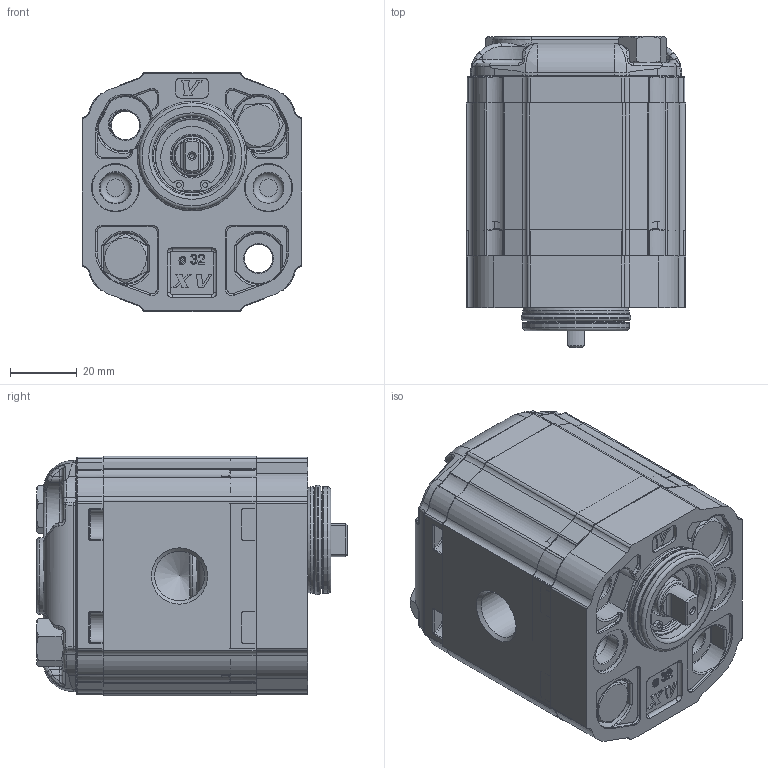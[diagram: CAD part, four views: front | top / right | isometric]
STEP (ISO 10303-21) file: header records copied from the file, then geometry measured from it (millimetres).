
FILE_DESCRIPTION( ( 'Unknown' ), '1' );
FILE_NAME( 'P:/montaggio_easy/output/STP/X1M2031DBBE.stp', 'Unknown', ( 'Unknown' ), ( 'Unknown' ), 'PSStep 14.0', 'Unknown', ' ' );
FILE_SCHEMA( ( 'AUTOMOTIVE_DESIGN { 1 0 10303 214 1 1 1 1 }' ) );
Length unit declared in the file: millimetre
Products named in the file (5): Assem1; X1M31; 1D; X1BBH46; XM140-E
Bounding box: 66 x 93.5 x 72 mm (x, y, z)
Surface area: 127650.8 mm2
Topology: 8 solids, 14 shells, 2642 faces, 6536 edges, 4060 vertices
Faces by surface type: plane 964, cylinder 822, torus 366, bspline 252, extrusion 126, cone 104, sphere 8
Full cylindrical faces by diameter (mm): 1.447 x4, 1.5 x2, 2.5 x2, 3 x12, 8 x8, 8.5 x6, 9 x4, 9.3 x4, 10 x2, 10.5 x4, 11.445 x4, 11.965 x2, 12 x2, 12.4 x2, 14.5 x4, 14.95 x4, 15.115 x2, 17.147 x2, 19 x2, 20 x2, 21.8 x2, 22 x4, 22.2 x2, 23 x2, 24 x2, 29.4 x4, 32 x4, 32.96 x2
Entity records: 56463 total; most frequent: CARTESIAN_POINT 15767, DIRECTION 6209, ORIENTED_EDGE 6180, EDGE_CURVE 3090, AXIS2_PLACEMENT_3D 2347, VERTEX_POINT 1978, EDGE_LOOP 1530, VECTOR 1515
